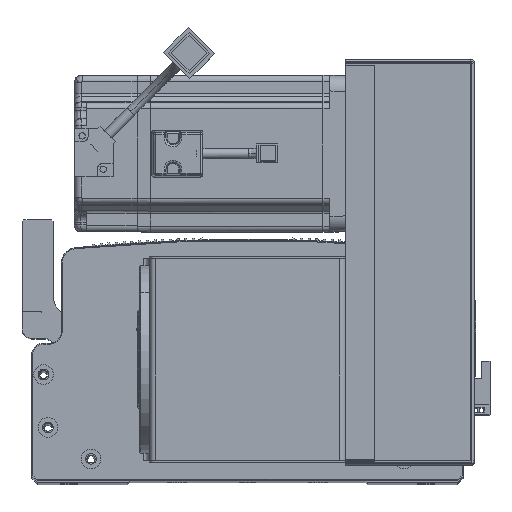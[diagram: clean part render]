
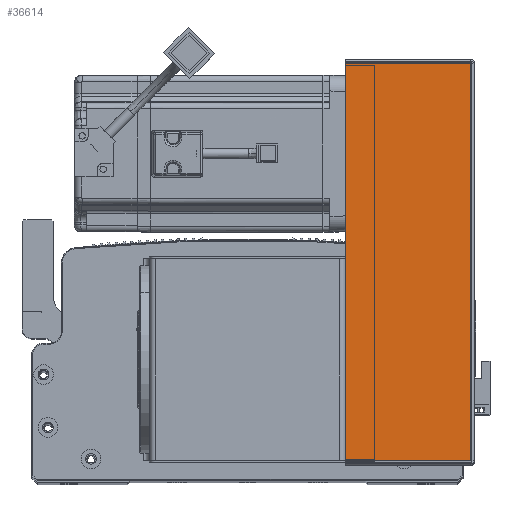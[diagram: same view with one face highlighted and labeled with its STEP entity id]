
A CAD part, top view. The second image highlights one B-rep face of the part: STEP entity #36614.
In plain terms, the highlighted planar face has unit normal (0, 0, 1) as drawn and (0, -1, 0) by its records, which use the part's own axes.
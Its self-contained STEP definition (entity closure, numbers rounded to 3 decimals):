
#2854 = ORIENTED_EDGE ( 'NONE', *, *, #82193, .T. ) ;
#4098 = VERTEX_POINT ( 'NONE', #47070 ) ;
#7575 = VECTOR ( 'NONE', #71606, 1000. ) ;
#10359 = PLANE ( 'NONE',  #22733 ) ;
#12934 = EDGE_CURVE ( 'NONE', #53169, #4098, #75286, .T. ) ;
#15992 = LINE ( 'NONE', #46835, #52890 ) ;
#16418 = EDGE_CURVE ( 'NONE', #61628, #4098, #15992, .T. ) ;
#22733 = AXIS2_PLACEMENT_3D ( 'NONE', #80389, #54759, #54474 ) ;
#23830 = ORIENTED_EDGE ( 'NONE', *, *, #16418, .F. ) ;
#28790 = ORIENTED_EDGE ( 'NONE', *, *, #36400, .F. ) ;
#34189 = CARTESIAN_POINT ( 'NONE',  ( 64.5, -1.5, 0. ) ) ;
#36400 = EDGE_CURVE ( 'NONE', #65955, #61628, #63243, .T. ) ;
#36614 = ADVANCED_FACE ( 'NONE', ( #62292 ), #10359, .F. ) ;
#37853 = EDGE_LOOP ( 'NONE', ( #28790, #2854, #64917, #23830 ) ) ;
#39180 = DIRECTION ( 'NONE',  ( 0., 0., 1. ) ) ;
#39906 = DIRECTION ( 'NONE',  ( 1., 0., 0. ) ) ;
#46835 = CARTESIAN_POINT ( 'NONE',  ( 0., -1.5, -0.707 ) ) ;
#46983 = DIRECTION ( 'NONE',  ( 0., 0., 1. ) ) ;
#47070 = CARTESIAN_POINT ( 'NONE',  ( 64.5, -1.5, -0.707 ) ) ;
#48139 = CARTESIAN_POINT ( 'NONE',  ( 0.737, -1.5, -0.707 ) ) ;
#52890 = VECTOR ( 'NONE', #39906, 1000. ) ;
#53169 = VERTEX_POINT ( 'NONE', #72461 ) ;
#54474 = DIRECTION ( 'NONE',  ( -1., 0., 0. ) ) ;
#54759 = DIRECTION ( 'NONE',  ( 0., 1., 0. ) ) ;
#58322 = VECTOR ( 'NONE', #46983, 1000. ) ;
#58508 = CARTESIAN_POINT ( 'NONE',  ( 0., -1.5, -203.293 ) ) ;
#58683 = CARTESIAN_POINT ( 'NONE',  ( 0.737, -1.5, 0. ) ) ;
#61628 = VERTEX_POINT ( 'NONE', #48139 ) ;
#62292 = FACE_OUTER_BOUND ( 'NONE', #37853, .T. ) ;
#63243 = LINE ( 'NONE', #58683, #64277 ) ;
#64277 = VECTOR ( 'NONE', #39180, 1000. ) ;
#64917 = ORIENTED_EDGE ( 'NONE', *, *, #12934, .T. ) ;
#65955 = VERTEX_POINT ( 'NONE', #70381 ) ;
#70381 = CARTESIAN_POINT ( 'NONE',  ( 0.737, -1.5, -203.293 ) ) ;
#71606 = DIRECTION ( 'NONE',  ( 1., 0., 0. ) ) ;
#72461 = CARTESIAN_POINT ( 'NONE',  ( 64.5, -1.5, -203.293 ) ) ;
#75286 = LINE ( 'NONE', #34189, #58322 ) ;
#75527 = LINE ( 'NONE', #58508, #7575 ) ;
#80389 = CARTESIAN_POINT ( 'NONE',  ( 0., -1.5, 0. ) ) ;
#82193 = EDGE_CURVE ( 'NONE', #65955, #53169, #75527, .T. ) ;
